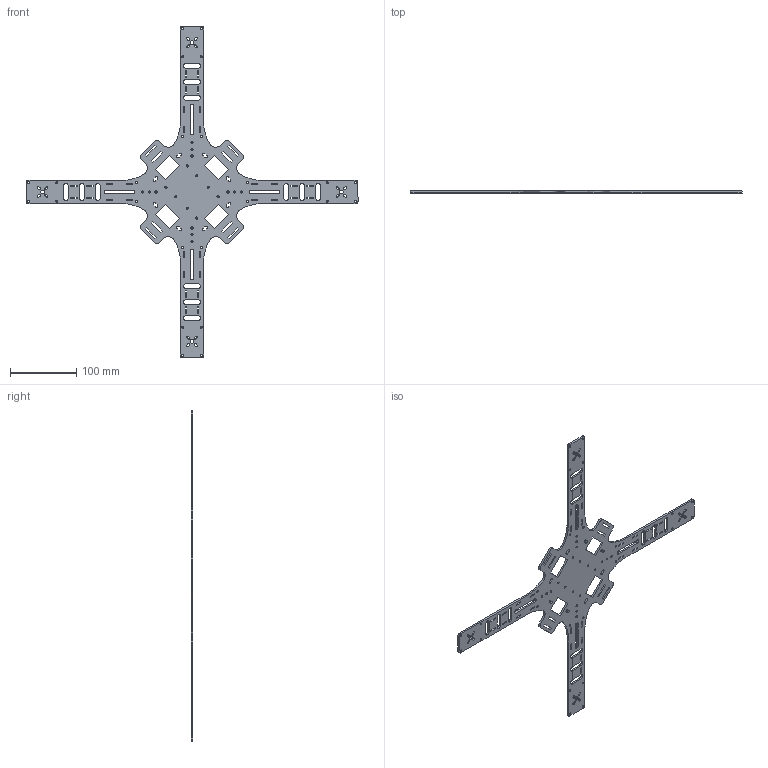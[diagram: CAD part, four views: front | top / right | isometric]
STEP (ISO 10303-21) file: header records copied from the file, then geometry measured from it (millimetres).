
FILE_DESCRIPTION (( 'STEP AP214' ), '1' );
FILE_NAME ('1-2翋啣狟450.STEP', '2026-01-19T13:49:07', ( '' ), ( '' ), 'SwSTEP 2.0', 'SolidWorks 2024', '' );
FILE_SCHEMA (( 'AUTOMOTIVE_DESIGN' ));
Length unit declared in the file: millimetre
Products named in the file (1): 1-2主板下450
Bounding box: 500 x 3 x 500 mm (x, y, z)
Volume: 114786.9 mm3; surface area: 93141.4 mm2
Topology: 1 solids, 1 shells, 526 faces, 1572 edges, 1048 vertices
Faces by surface type: plane 282, cylinder 244
Entity records: 18355 total; most frequent: CARTESIAN_POINT 3147, ORIENTED_EDGE 3144, DIRECTION 3114, EDGE_CURVE 1572, LINE 1084, VECTOR 1084, VERTEX_POINT 1048, AXIS2_PLACEMENT_3D 1015
